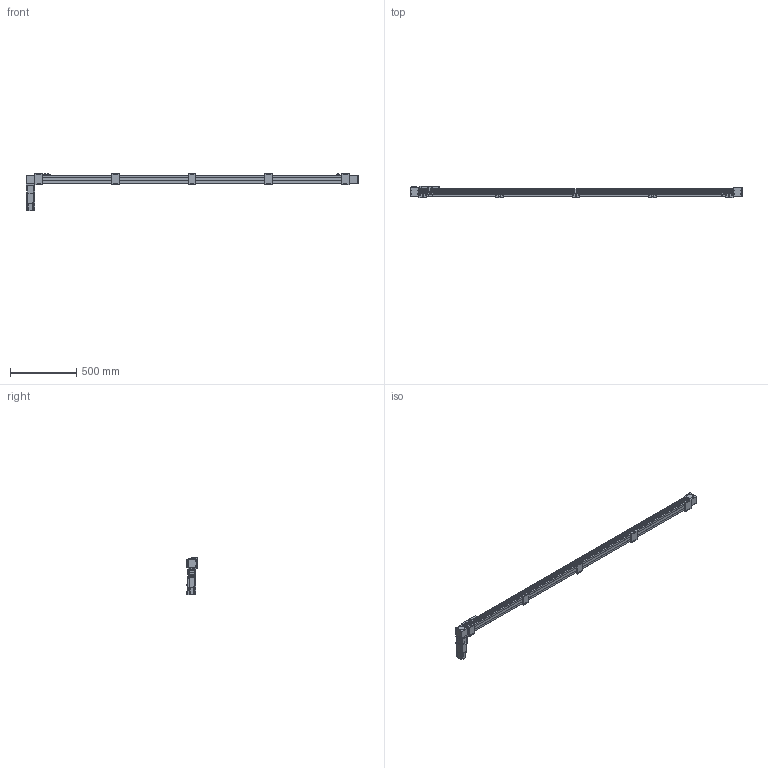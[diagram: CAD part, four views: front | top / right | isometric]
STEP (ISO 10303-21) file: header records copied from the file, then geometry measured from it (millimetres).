
FILE_DESCRIPTION(/* description */ ('STEP AP203'),/* implementation_level */ '2;1');
FILE_NAME(/* name */ 'SK60-P13-S2200-BR-T40-C1-N(0)',/* time_stamp */ '2023-04-06T04:00:46+02:00',/* author */ ('License CC BY-ND 4.0'),/* organization */ ('CADENAS'),/* preprocessor_version */ 'ST-DEVELOPER v19.3',/* originating_system */ 'PARTsolutions',/* authorisation */ ' ');
FILE_SCHEMA (('CONFIG_CONTROL_DESIGN'));
Length unit declared in the file: millimetre
Products named in the file (11): SK60-P13-S2200-BR-T40-C1-N(0); PSC140-sensor; SK60-S450_seat; SK60-S450-BL-C1_slider; SK60_body3; SK60_body6; SK60-BL_body2; T40-p1; SK60_body5; SK60_body4; SK60-S2200-BR-C1_body
Assembly tree (20 placements, depth 2):
  SK60-P13-S2200-BR-T40-C1-N(0)
    PSC140-sensor  x3
    SK60-S450_seat  x5
    SK60-S450-BL-C1_slider
    SK60_body3  x3
    SK60_body6  x2
    SK60-BL_body2  x2
    T40-p1
    SK60_body5
    SK60_body4
    SK60-S2200-BR-C1_body
Bounding box: 2500 x 90 x 279.1 mm (x, y, z)
Volume: 9107728.4 mm3; surface area: 1127513.2 mm2
Topology: 20 solids, 24 shells, 966 faces, 2403 edges, 1586 vertices
Faces by surface type: plane 616, cylinder 314, cone 34, torus 2
Full cylindrical faces by diameter (mm): 2.8 x3, 3.3 x4, 4.2 x8, 4.5 x26, 4.6 x3, 4.917 x28, 5 x2, 5.478 x4, 5.5 x31, 6.5 x10, 8 x4, 8.5 x4, 9.988 x4, 10 x20, 13.556 x1, 14 x1, 14.586 x1, 19.692 x1, 38.432 x2, 43 x1, 44 x3, 47 x2, 50 x2
Entity records: 19395 total; most frequent: DIRECTION 3298, CARTESIAN_POINT 3292, ORIENTED_EDGE 3050, EDGE_CURVE 1525, AXIS2_PLACEMENT_3D 1103, LINE 1092, VECTOR 1092, VERTEX_POINT 1077
